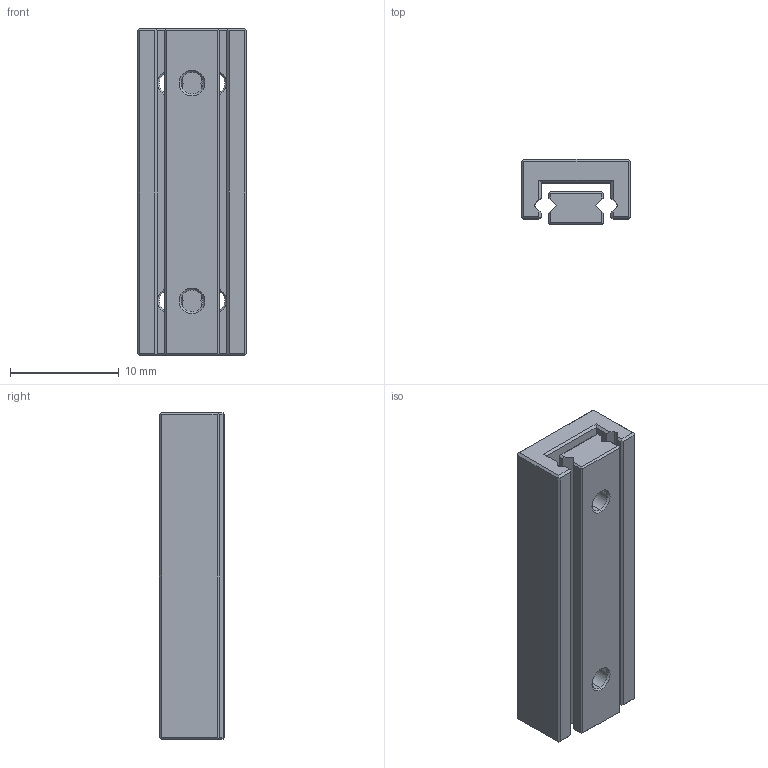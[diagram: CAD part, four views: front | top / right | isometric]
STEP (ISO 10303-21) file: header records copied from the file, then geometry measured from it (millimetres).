
FILE_DESCRIPTION (( 'STEP AP214' ), '1' );
FILE_NAME ('PMM 1-30.STEP', '2012-03-02T10:40:53', ( '' ), ( '' ), 'SwSTEP 2.0', 'SolidWorks 2011', '' );
FILE_SCHEMA (( 'AUTOMOTIVE_DESIGN' ));
Length unit declared in the file: millimetre
Products named in the file (1): PMM 1-30
Bounding box: 10 x 6 x 30 mm (x, y, z)
Volume: 1342.6 mm3; surface area: 1779 mm2
Topology: 2 solids, 2 shells, 256 faces, 696 edges, 460 vertices
Faces by surface type: plane 174, bspline 43, cone 24, cylinder 15
Entity records: 11893 total; most frequent: CARTESIAN_POINT 4024, ORIENTED_EDGE 1392, DIRECTION 1108, EDGE_CURVE 696, VECTOR 540, LINE 540, VERTEX_POINT 460, AXIS2_PLACEMENT_3D 284
